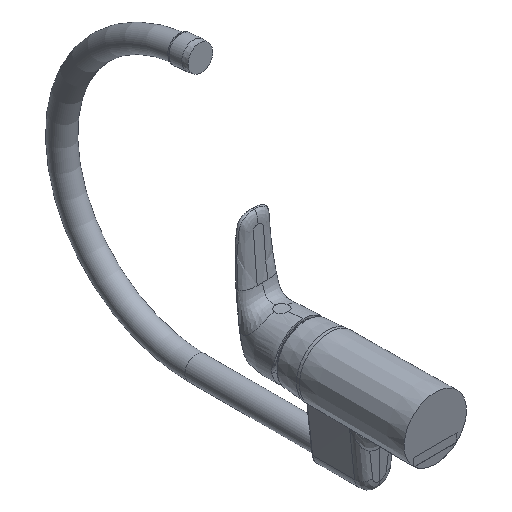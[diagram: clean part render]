
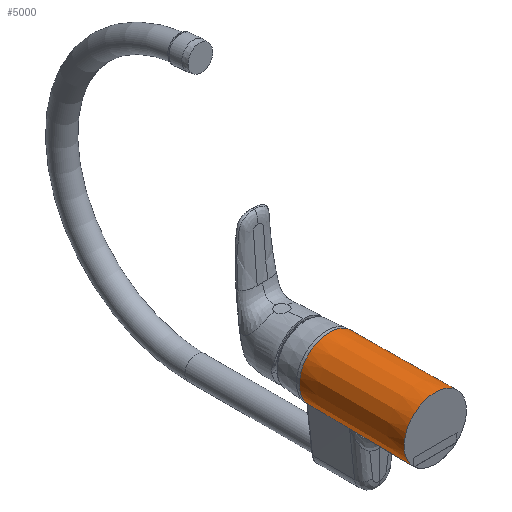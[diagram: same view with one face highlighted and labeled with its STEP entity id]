
A CAD part, isometric view. The second image highlights one B-rep face of the part: STEP entity #5000.
In plain terms, the highlighted conical face has half-angle 0.5 degrees and reference radius 27.303 mm.
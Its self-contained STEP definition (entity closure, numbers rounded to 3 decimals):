
#651 = DIRECTION ( 'NONE',  ( 0., -1., 0. ) ) ;
#1328 = VERTEX_POINT ( 'NONE', #11506 ) ;
#1578 = VERTEX_POINT ( 'NONE', #4455 ) ;
#1972 = DIRECTION ( 'NONE',  ( 0., 1., 0. ) ) ;
#2512 = DIRECTION ( 'NONE',  ( -1., 0., 0. ) ) ;
#2785 = CIRCLE ( 'NONE', #7996, 26.492 ) ;
#3094 = EDGE_LOOP ( 'NONE', ( #11577 ) ) ;
#3451 = CARTESIAN_POINT ( 'NONE',  ( 0., 0., 0. ) ) ;
#3624 = AXIS2_PLACEMENT_3D ( 'NONE', #7601, #1972, #8514 ) ;
#4079 = AXIS2_PLACEMENT_3D ( 'NONE', #3451, #5342, #2512 ) ;
#4407 = EDGE_LOOP ( 'NONE', ( #6917 ) ) ;
#4455 = CARTESIAN_POINT ( 'NONE',  ( 27.3, 0.303, 0. ) ) ;
#4721 = CIRCLE ( 'NONE', #3624, 27.3 ) ;
#5000 = ADVANCED_FACE ( 'NONE', ( #9307, #9035 ), #8754, .T. ) ;
#5342 = DIRECTION ( 'NONE',  ( 0., -1., 0. ) ) ;
#6300 = CARTESIAN_POINT ( 'NONE',  ( 0., 92.943, 0. ) ) ;
#6917 = ORIENTED_EDGE ( 'NONE', *, *, #11527, .T. ) ;
#7129 = EDGE_CURVE ( 'NONE', #1578, #1578, #4721, .T. ) ;
#7226 = DIRECTION ( 'NONE',  ( 1., 0., 0. ) ) ;
#7601 = CARTESIAN_POINT ( 'NONE',  ( 0., 0.303, 0. ) ) ;
#7996 = AXIS2_PLACEMENT_3D ( 'NONE', #6300, #651, #7226 ) ;
#8514 = DIRECTION ( 'NONE',  ( 1., 0., 0. ) ) ;
#8754 = CONICAL_SURFACE ( 'NONE', #4079, 27.303, 0.009 ) ;
#9035 = FACE_BOUND ( 'NONE', #4407, .T. ) ;
#9307 = FACE_OUTER_BOUND ( 'NONE', #3094, .T. ) ;
#11506 = CARTESIAN_POINT ( 'NONE',  ( 26.492, 92.943, 0. ) ) ;
#11527 = EDGE_CURVE ( 'NONE', #1328, #1328, #2785, .T. ) ;
#11577 = ORIENTED_EDGE ( 'NONE', *, *, #7129, .T. ) ;
